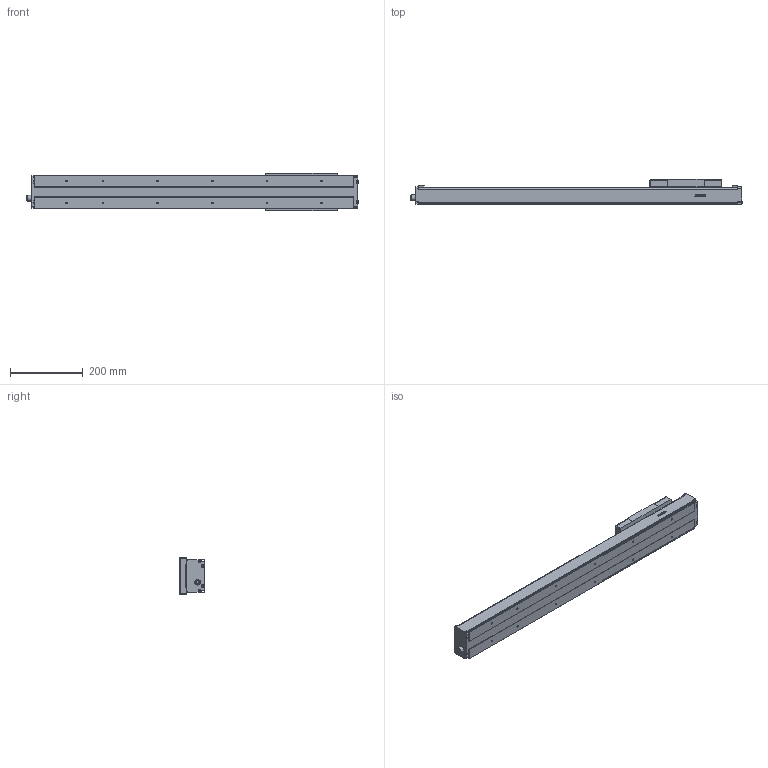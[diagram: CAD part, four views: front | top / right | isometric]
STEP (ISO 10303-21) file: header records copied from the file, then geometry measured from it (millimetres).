
FILE_DESCRIPTION(/* description */ (''),/* implementation_level */ '2;1');
FILE_NAME(/* name */ 'D:\混合母檔20191031\混和母檔\混和母檔\bin\Debug\Download\3D\KS90-5C-600AF0\KS90-5C-600AF0.stp',/* time_stamp */ '2019-11-04T14:37:32+08:00',/* author */ ('user'),/* organization */ (''),/* preprocessor_version */ 'ST-DEVELOPER v16.13',/* originating_system */ 'Autodesk Inventor 2018',/* authorisation */ '');
FILE_SCHEMA (('AUTOMOTIVE_DESIGN { 1 0 10303 214 3 1 1 }'));
Length unit declared in the file: millimetre
Products named in the file (3): KS90-5C-600AF0; KS90-F0; KS90-SL
Assembly tree (2 placements, depth 2):
  KS90-5C-600AF0
    KS90-F0
    KS90-SL
Bounding box: 911.6 x 68.5 x 102.4 mm (x, y, z)
Volume: 1432141.1 mm3; surface area: 576987.1 mm2
Topology: 3 solids, 13 shells, 1019 faces, 2798 edges, 1848 vertices
Faces by surface type: plane 563, cylinder 148, bspline 136, cone 120, torus 48, sphere 4
Full cylindrical faces by diameter (mm): 2.113 x2, 2.459 x8, 2.5 x4, 2.693 x8, 3 x12, 3.242 x6, 3.5 x8, 4 x7, 4.134 x12, 4.5 x8, 4.917 x4, 5.5 x12, 6 x3, 7 x4, 8 x2, 10.437 x1, 11 x1, 11.5 x1, 14 x1, 15.538 x1, 28 x1, 30 x1
Entity records: 37929 total; most frequent: CARTESIAN_POINT 14058, ORIENTED_EDGE 5022, DIRECTION 4460, EDGE_CURVE 2511, VERTEX_POINT 1733, LINE 1498, VECTOR 1498, AXIS2_PLACEMENT_3D 1481
